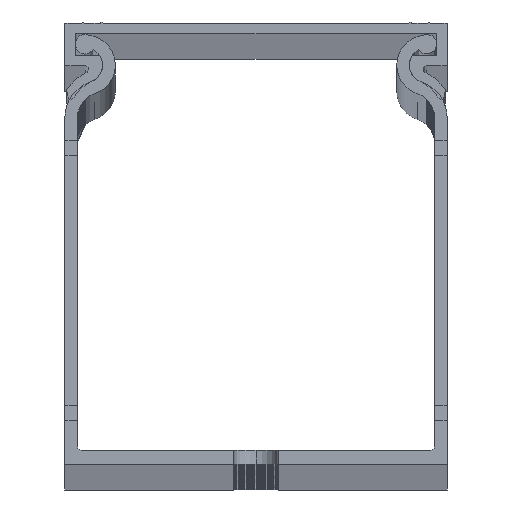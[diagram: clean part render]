
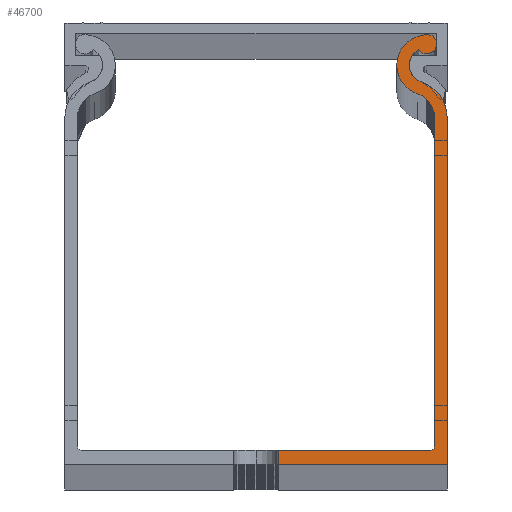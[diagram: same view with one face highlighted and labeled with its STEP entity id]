
A CAD part, top view. The second image highlights one B-rep face of the part: STEP entity #46700.
In plain terms, the highlighted planar face has unit normal (0, 0, 1).
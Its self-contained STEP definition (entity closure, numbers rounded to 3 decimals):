
#1917 = AXIS2_PLACEMENT_3D ( 'NONE', #17702, #2794, #58397 ) ;
#2300 = DIRECTION ( 'NONE',  ( 0., 0., 1. ) ) ;
#2624 = VERTEX_POINT ( 'NONE', #13019 ) ;
#2794 = DIRECTION ( 'NONE',  ( 0., 0., -1. ) ) ;
#3795 = EDGE_CURVE ( 'NONE', #42385, #2624, #101729, .T. ) ;
#5848 = DIRECTION ( 'NONE',  ( 0., 0., 1. ) ) ;
#6286 = CIRCLE ( 'NONE', #64859, 1.35 ) ;
#6947 = VERTEX_POINT ( 'NONE', #33259 ) ;
#8037 = CIRCLE ( 'NONE', #79600, 4.1 ) ;
#8181 = ORIENTED_EDGE ( 'NONE', *, *, #86987, .T. ) ;
#9212 = DIRECTION ( 'NONE',  ( 1., 0., 0. ) ) ;
#11442 = EDGE_LOOP ( 'NONE', ( #87546, #92957, #75672, #28526, #23611, #72280, #40768, #66332, #87711, #64240, #102471, #8181, #69611 ) ) ;
#11750 = CARTESIAN_POINT ( 'NONE',  ( 2591.657, 1294.213, 2000. ) ) ;
#12095 = CARTESIAN_POINT ( 'NONE',  ( 2571.407, 1284.233, 2000. ) ) ;
#12680 = LINE ( 'NONE', #31401, #40134 ) ;
#12791 = CARTESIAN_POINT ( 'NONE',  ( 2591.655, 1291.356, 2000. ) ) ;
#12820 = CARTESIAN_POINT ( 'NONE',  ( 2594.407, 1284.196, 2000. ) ) ;
#13019 = CARTESIAN_POINT ( 'NONE',  ( 2594.407, 1237.056, 2000. ) ) ;
#13069 = CARTESIAN_POINT ( 'NONE',  ( 2592.207, 1238.956, 2000. ) ) ;
#13352 = DIRECTION ( 'NONE',  ( 1., 0., 0. ) ) ;
#13534 = CARTESIAN_POINT ( 'NONE',  ( 2592.707, 1284.203, 2000. ) ) ;
#14126 = DIRECTION ( 'NONE',  ( 1., 0., 0. ) ) ;
#16167 = DIRECTION ( 'NONE',  ( 1., 0., 0. ) ) ;
#17702 = CARTESIAN_POINT ( 'NONE',  ( 2591.655, 1291.356, 2000. ) ) ;
#18352 = DIRECTION ( 'NONE',  ( 0., 0., -1. ) ) ;
#18502 = AXIS2_PLACEMENT_3D ( 'NONE', #68103, #18352, #35799 ) ;
#20132 = DIRECTION ( 'NONE',  ( 1., 0., 0. ) ) ;
#21114 = VERTEX_POINT ( 'NONE', #99485 ) ;
#22845 = DIRECTION ( 'NONE',  ( 0., 0., 1. ) ) ;
#23074 = VECTOR ( 'NONE', #53918, 1000. ) ;
#23611 = ORIENTED_EDGE ( 'NONE', *, *, #49288, .T. ) ;
#24479 = DIRECTION ( 'NONE',  ( -1., 0., 0. ) ) ;
#26832 = VERTEX_POINT ( 'NONE', #59273 ) ;
#28526 = ORIENTED_EDGE ( 'NONE', *, *, #55877, .T. ) ;
#28955 = DIRECTION ( 'NONE',  ( 0., 0., 1. ) ) ;
#30877 = DIRECTION ( 'NONE',  ( 0., 1., 0. ) ) ;
#31401 = CARTESIAN_POINT ( 'NONE',  ( 2568.407, 1238.956, 2000. ) ) ;
#32169 = DIRECTION ( 'NONE',  ( 0., 0., -1. ) ) ;
#32993 = AXIS2_PLACEMENT_3D ( 'NONE', #46479, #54796, #13352 ) ;
#33259 = CARTESIAN_POINT ( 'NONE',  ( 2590.527, 1293.474, 2000. ) ) ;
#35003 = CIRCLE ( 'NONE', #106354, 5.1 ) ;
#35799 = DIRECTION ( 'NONE',  ( 1., 0., 0. ) ) ;
#37217 = EDGE_CURVE ( 'NONE', #87742, #72828, #12680, .T. ) ;
#37778 = CARTESIAN_POINT ( 'NONE',  ( 2591.029, 1295.408, 2000. ) ) ;
#38861 = CARTESIAN_POINT ( 'NONE',  ( 2547.507, 1284.233, 2000. ) ) ;
#40134 = VECTOR ( 'NONE', #24479, 1000. ) ;
#40768 = ORIENTED_EDGE ( 'NONE', *, *, #49496, .T. ) ;
#42385 = VERTEX_POINT ( 'NONE', #72731 ) ;
#45431 = CIRCLE ( 'NONE', #107327, 2.4 ) ;
#46479 = CARTESIAN_POINT ( 'NONE',  ( 2589.307, 1284.233, 2000. ) ) ;
#46700 = ADVANCED_FACE ( 'NONE', ( #86173 ), #89736, .T. ) ;
#47476 = EDGE_CURVE ( 'NONE', #69100, #80457, #8037, .T. ) ;
#49288 = EDGE_CURVE ( 'NONE', #72267, #26832, #45431, .T. ) ;
#49496 = EDGE_CURVE ( 'NONE', #6947, #81841, #6286, .T. ) ;
#49679 = EDGE_CURVE ( 'NONE', #21114, #92846, #92054, .T. ) ;
#49961 = DIRECTION ( 'NONE',  ( 0., 0., 1. ) ) ;
#50666 = CIRCLE ( 'NONE', #1917, 2.4 ) ;
#52087 = CARTESIAN_POINT ( 'NONE',  ( 2590.372, 1287.462, 2000. ) ) ;
#53175 = CIRCLE ( 'NONE', #73572, 4.1 ) ;
#53224 = AXIS2_PLACEMENT_3D ( 'NONE', #38861, #22845, #14126 ) ;
#53918 = DIRECTION ( 'NONE',  ( 0., -1., 0. ) ) ;
#54796 = DIRECTION ( 'NONE',  ( 0., 0., -1. ) ) ;
#55756 = EDGE_CURVE ( 'NONE', #26832, #6947, #50666, .T. ) ;
#55877 = EDGE_CURVE ( 'NONE', #56540, #72267, #35003, .T. ) ;
#55982 = CARTESIAN_POINT ( 'NONE',  ( 2568.407, 1237.056, 2000. ) ) ;
#56540 = VERTEX_POINT ( 'NONE', #12820 ) ;
#57043 = DIRECTION ( 'NONE',  ( 1., 0., 0. ) ) ;
#57531 = VECTOR ( 'NONE', #57043, 1000. ) ;
#58397 = DIRECTION ( 'NONE',  ( 1., 0., 0. ) ) ;
#59273 = CARTESIAN_POINT ( 'NONE',  ( 2589.255, 1291.356, 2000. ) ) ;
#61194 = CIRCLE ( 'NONE', #32993, 3.4 ) ;
#61231 = LINE ( 'NONE', #12095, #72866 ) ;
#63026 = CARTESIAN_POINT ( 'NONE',  ( 2590.904, 1289.077, 2000. ) ) ;
#64240 = ORIENTED_EDGE ( 'NONE', *, *, #85047, .T. ) ;
#64282 = EDGE_CURVE ( 'NONE', #81841, #69100, #53175, .T. ) ;
#64859 = AXIS2_PLACEMENT_3D ( 'NONE', #11750, #2300, #20132 ) ;
#66332 = ORIENTED_EDGE ( 'NONE', *, *, #64282, .T. ) ;
#68103 = CARTESIAN_POINT ( 'NONE',  ( 2592.207, 1239.456, 2000. ) ) ;
#69100 = VERTEX_POINT ( 'NONE', #96191 ) ;
#69611 = ORIENTED_EDGE ( 'NONE', *, *, #37217, .T. ) ;
#69947 = CIRCLE ( 'NONE', #18502, 0.5 ) ;
#70001 = DIRECTION ( 'NONE',  ( 1., 0., 0. ) ) ;
#72267 = VERTEX_POINT ( 'NONE', #63026 ) ;
#72280 = ORIENTED_EDGE ( 'NONE', *, *, #55756, .T. ) ;
#72731 = CARTESIAN_POINT ( 'NONE',  ( 2571.407, 1237.056, 2000. ) ) ;
#72828 = VERTEX_POINT ( 'NONE', #78495 ) ;
#72866 = VECTOR ( 'NONE', #95373, 1000. ) ;
#72977 = CARTESIAN_POINT ( 'NONE',  ( 2594.407, 1237.056, 2000. ) ) ;
#73572 = AXIS2_PLACEMENT_3D ( 'NONE', #12791, #5848, #96056 ) ;
#73917 = EDGE_CURVE ( 'NONE', #42385, #72828, #61231, .T. ) ;
#75672 = ORIENTED_EDGE ( 'NONE', *, *, #96596, .T. ) ;
#78495 = CARTESIAN_POINT ( 'NONE',  ( 2571.407, 1238.956, 2000. ) ) ;
#79600 = AXIS2_PLACEMENT_3D ( 'NONE', #99346, #49961, #9212 ) ;
#80457 = VERTEX_POINT ( 'NONE', #52087 ) ;
#81141 = LINE ( 'NONE', #72977, #95513 ) ;
#81841 = VERTEX_POINT ( 'NONE', #37778 ) ;
#85047 = EDGE_CURVE ( 'NONE', #80457, #21114, #61194, .T. ) ;
#86173 = FACE_OUTER_BOUND ( 'NONE', #11442, .T. ) ;
#86987 = EDGE_CURVE ( 'NONE', #92846, #87742, #69947, .T. ) ;
#87546 = ORIENTED_EDGE ( 'NONE', *, *, #73917, .F. ) ;
#87711 = ORIENTED_EDGE ( 'NONE', *, *, #47476, .T. ) ;
#87742 = VERTEX_POINT ( 'NONE', #13069 ) ;
#89736 = PLANE ( 'NONE',  #53224 ) ;
#92054 = LINE ( 'NONE', #13534, #23074 ) ;
#92846 = VERTEX_POINT ( 'NONE', #106557 ) ;
#92957 = ORIENTED_EDGE ( 'NONE', *, *, #3795, .T. ) ;
#95373 = DIRECTION ( 'NONE',  ( 0., 1., 0. ) ) ;
#95513 = VECTOR ( 'NONE', #30877, 1000. ) ;
#96056 = DIRECTION ( 'NONE',  ( 1., 0., 0. ) ) ;
#96191 = CARTESIAN_POINT ( 'NONE',  ( 2587.555, 1291.356, 2000. ) ) ;
#96212 = CARTESIAN_POINT ( 'NONE',  ( 2589.307, 1284.233, 2000. ) ) ;
#96596 = EDGE_CURVE ( 'NONE', #2624, #56540, #81141, .T. ) ;
#99032 = CARTESIAN_POINT ( 'NONE',  ( 2591.655, 1291.356, 2000. ) ) ;
#99346 = CARTESIAN_POINT ( 'NONE',  ( 2591.655, 1291.356, 2000. ) ) ;
#99485 = CARTESIAN_POINT ( 'NONE',  ( 2592.707, 1284.203, 2000. ) ) ;
#101729 = LINE ( 'NONE', #55982, #57531 ) ;
#102471 = ORIENTED_EDGE ( 'NONE', *, *, #49679, .T. ) ;
#106354 = AXIS2_PLACEMENT_3D ( 'NONE', #96212, #28955, #70001 ) ;
#106557 = CARTESIAN_POINT ( 'NONE',  ( 2592.707, 1239.456, 2000. ) ) ;
#107327 = AXIS2_PLACEMENT_3D ( 'NONE', #99032, #32169, #16167 ) ;
